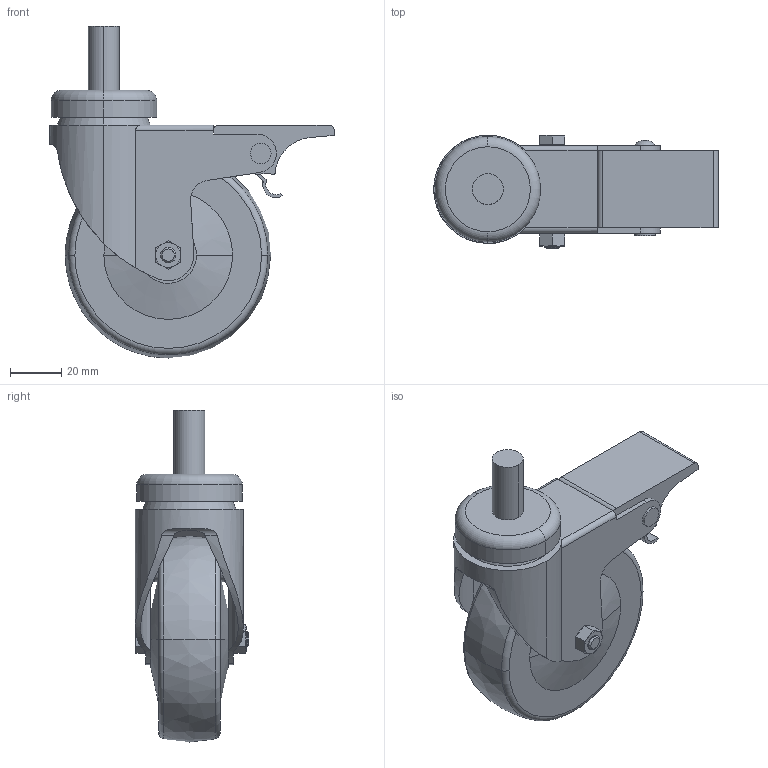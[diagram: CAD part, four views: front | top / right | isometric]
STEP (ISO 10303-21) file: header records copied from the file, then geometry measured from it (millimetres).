
FILE_DESCRIPTION (( 'STEP AP203' ), '1' );
FILE_NAME ('cac7-080cbf.STEP', '2021-10-25T23:17:23', ( '' ), ( '' ), 'SwSTEP 2.0', 'SolidWorks 2020', '' );
FILE_SCHEMA (( 'CONFIG_CONTROL_DESIGN' ));
Length unit declared in the file: millimetre
Products named in the file (1): cac7-080cbf
Bounding box: 110.5 x 44 x 129 mm (x, y, z)
Volume: 174769.7 mm3; surface area: 39236.4 mm2
Topology: 1 solids, 1 shells, 128 faces, 331 edges, 208 vertices
Faces by surface type: plane 50, cylinder 42, cone 26, torus 8, sphere 2
Entity records: 4199 total; most frequent: CARTESIAN_POINT 1008, DIRECTION 670, ORIENTED_EDGE 648, EDGE_CURVE 324, AXIS2_PLACEMENT_3D 265, VERTEX_POINT 205, LINE 140, VECTOR 140
